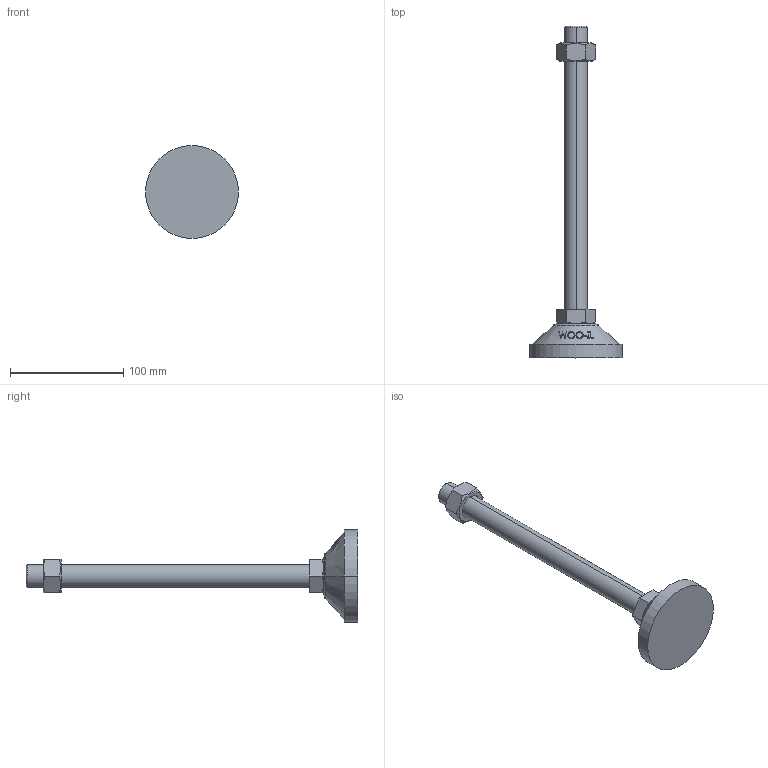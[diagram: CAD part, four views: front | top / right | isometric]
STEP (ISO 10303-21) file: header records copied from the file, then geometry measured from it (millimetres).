
FILE_DESCRIPTION (( 'STEP AP214' ), '1' );
FILE_NAME ('RL82-M20-250.step', '2021-01-06T08:18:59', ( '' ), ( '' ), 'SwSTEP 2.0', 'SolidWorks 2019', '' );
FILE_SCHEMA (( 'AUTOMOTIVE_DESIGN' ));
Length unit declared in the file: millimetre
Products named in the file (1): RL82-M20-250
Bounding box: 82 x 293 x 82 mm (x, y, z)
Volume: 206751.9 mm3; surface area: 36854 mm2
Topology: 3 solids, 3 shells, 93 faces, 217 edges, 140 vertices
Faces by surface type: plane 47, cone 22, bspline 16, cylinder 6, torus 2
Entity records: 4235 total; most frequent: CARTESIAN_POINT 2203, ORIENTED_EDGE 434, DIRECTION 349, EDGE_CURVE 217, VERTEX_POINT 140, AXIS2_PLACEMENT_3D 134, EDGE_LOOP 105, ADVANCED_FACE 93
